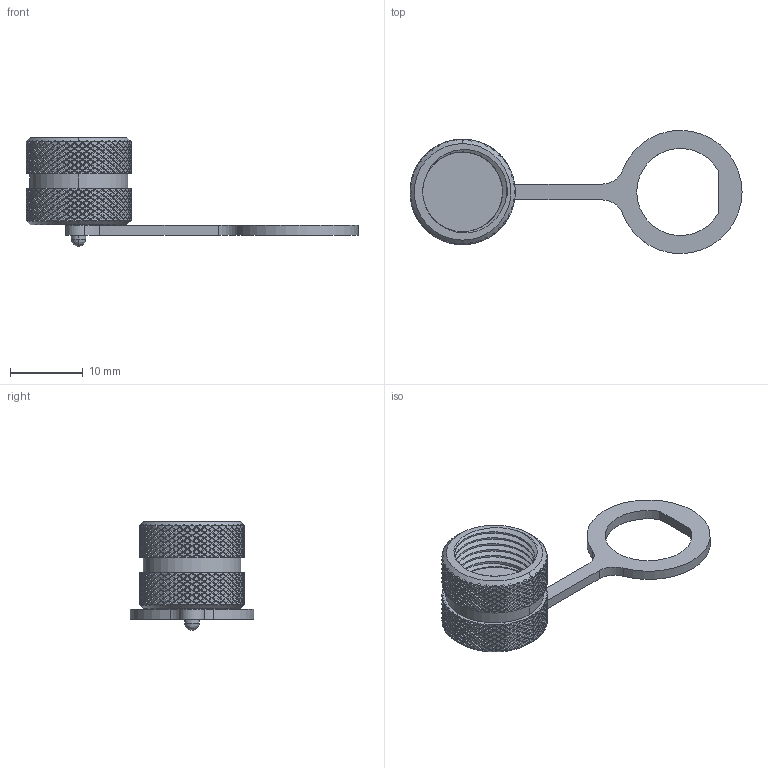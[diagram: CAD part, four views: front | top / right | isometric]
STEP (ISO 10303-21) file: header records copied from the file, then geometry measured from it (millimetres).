
FILE_DESCRIPTION (( 'STEP AP203' ), '1' );
FILE_NAME ('858-MDC-SS-T.STEP', '2026-01-26T14:25:01', ( '' ), ( '' ), 'SwSTEP 2.0', 'SolidWorks 2020', '' );
FILE_SCHEMA (( 'CONFIG_CONTROL_DESIGN' ));
Length unit declared in the file: millimetre
Products named in the file (1): 858-MDC-SS-T
Bounding box: 45.75 x 17 x 15 mm (x, y, z)
Volume: 1499.3 mm3; surface area: 2040.1 mm2
Topology: 1 solids, 1 shells, 5298 faces, 11060 edges, 5767 vertices
Faces by surface type: bspline 4175, cylinder 1108, plane 11, cone 4
Entity records: 262300 total; most frequent: CARTESIAN_POINT 185594, ORIENTED_EDGE 22112, EDGE_CURVE 11056, B_SPLINE_CURVE_WITH_KNOTS 10191, VERTEX_POINT 5767, EDGE_LOOP 5307, ADVANCED_FACE 5298, FACE_OUTER_BOUND 5298
